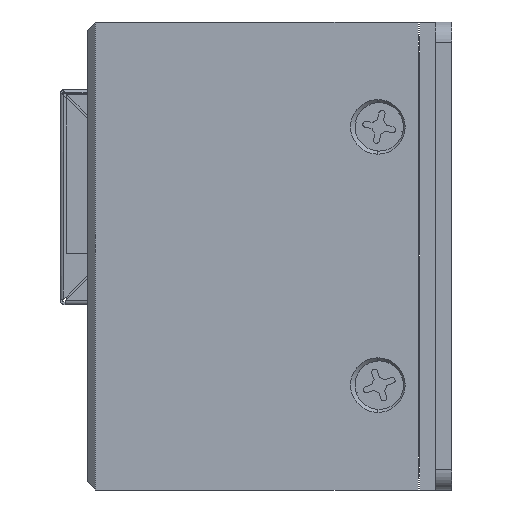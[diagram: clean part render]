
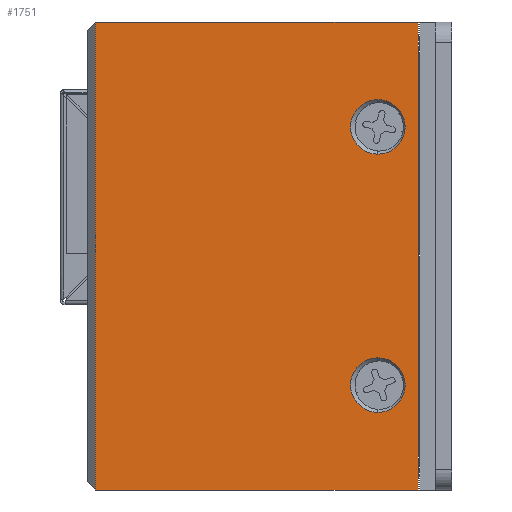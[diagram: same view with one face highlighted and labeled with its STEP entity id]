
A CAD part, left-side view. The second image highlights one B-rep face of the part: STEP entity #1751.
In plain terms, the highlighted planar face has unit normal (-1, 0, 0).
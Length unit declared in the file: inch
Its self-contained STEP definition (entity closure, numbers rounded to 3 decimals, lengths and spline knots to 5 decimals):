
#197 = CARTESIAN_POINT ( 'NONE',  ( -1.3586, 0.93324, 0.725 ) ) ;
#351 = CARTESIAN_POINT ( 'NONE',  ( -1.3586, 0.03324, 0.4 ) ) ;
#1751 = ADVANCED_FACE ( 'NONE', ( #25586, #46461, #58072 ), #47464, .F. ) ;
#2556 = CARTESIAN_POINT ( 'NONE',  ( -1.3586, -0.09176, -0.725 ) ) ;
#3093 = AXIS2_PLACEMENT_3D ( 'NONE', #65758, #50384, #18884 ) ;
#3988 = DIRECTION ( 'NONE',  ( 0., -1., 0. ) ) ;
#4847 = CARTESIAN_POINT ( 'NONE',  ( -1.3586, 0.03324, 0.4845 ) ) ;
#5496 = DIRECTION ( 'NONE',  ( 0., 0., 1. ) ) ;
#5505 = EDGE_LOOP ( 'NONE', ( #31443, #59623 ) ) ;
#6138 = EDGE_LOOP ( 'NONE', ( #35790, #52740, #32893, #7312 ) ) ;
#7312 = ORIENTED_EDGE ( 'NONE', *, *, #37714, .T. ) ;
#9436 = VECTOR ( 'NONE', #3988, 39.37008 ) ;
#10338 = VECTOR ( 'NONE', #59057, 39.37008 ) ;
#11480 = VERTEX_POINT ( 'NONE', #46230 ) ;
#11550 = DIRECTION ( 'NONE',  ( 0., 0., 1. ) ) ;
#12249 = CARTESIAN_POINT ( 'NONE',  ( -1.3586, -0.09176, 0.725 ) ) ;
#12475 = VERTEX_POINT ( 'NONE', #58650 ) ;
#12857 = CARTESIAN_POINT ( 'NONE',  ( -1.3586, 0.90824, 0.725 ) ) ;
#15385 = CIRCLE ( 'NONE', #21906, 0.0845 ) ;
#15626 = CARTESIAN_POINT ( 'NONE',  ( -1.3586, 0.93324, -0.725 ) ) ;
#15641 = EDGE_CURVE ( 'NONE', #11480, #42273, #51596, .T. ) ;
#16359 = CIRCLE ( 'NONE', #47008, 0.0845 ) ;
#17994 = DIRECTION ( 'NONE',  ( 0., 0., 1. ) ) ;
#18884 = DIRECTION ( 'NONE',  ( 0., 0., 1. ) ) ;
#20410 = ORIENTED_EDGE ( 'NONE', *, *, #28539, .F. ) ;
#20436 = DIRECTION ( 'NONE',  ( 0., 0., -1. ) ) ;
#20515 = VERTEX_POINT ( 'NONE', #12857 ) ;
#21376 = CARTESIAN_POINT ( 'NONE',  ( -1.3586, 0.03324, 0.3155 ) ) ;
#21906 = AXIS2_PLACEMENT_3D ( 'NONE', #33081, #27955, #17994 ) ;
#22621 = AXIS2_PLACEMENT_3D ( 'NONE', #23176, #64578, #11550 ) ;
#23113 = LINE ( 'NONE', #2556, #10338 ) ;
#23176 = CARTESIAN_POINT ( 'NONE',  ( -1.3586, 0.03324, -0.4 ) ) ;
#25178 = DIRECTION ( 'NONE',  ( 0., 0., -1. ) ) ;
#25222 = LINE ( 'NONE', #197, #9436 ) ;
#25514 = LINE ( 'NONE', #47072, #58124 ) ;
#25586 = FACE_BOUND ( 'NONE', #59237, .T. ) ;
#25915 = CARTESIAN_POINT ( 'NONE',  ( -1.3586, 0.93324, -0.725 ) ) ;
#26257 = DIRECTION ( 'NONE',  ( 1., 0., 0. ) ) ;
#27955 = DIRECTION ( 'NONE',  ( -1., 0., 0. ) ) ;
#28539 = EDGE_CURVE ( 'NONE', #12475, #65044, #59752, .T. ) ;
#29659 = VERTEX_POINT ( 'NONE', #21376 ) ;
#29737 = VECTOR ( 'NONE', #56355, 39.37008 ) ;
#31258 = EDGE_CURVE ( 'NONE', #52942, #29659, #52322, .T. ) ;
#31443 = ORIENTED_EDGE ( 'NONE', *, *, #31258, .F. ) ;
#32893 = ORIENTED_EDGE ( 'NONE', *, *, #15641, .T. ) ;
#33081 = CARTESIAN_POINT ( 'NONE',  ( -1.3586, 0.03324, -0.4 ) ) ;
#35790 = ORIENTED_EDGE ( 'NONE', *, *, #61942, .F. ) ;
#35953 = ORIENTED_EDGE ( 'NONE', *, *, #67560, .F. ) ;
#37714 = EDGE_CURVE ( 'NONE', #42273, #38909, #23113, .T. ) ;
#38887 = CARTESIAN_POINT ( 'NONE',  ( -1.3586, -0.09176, -0.725 ) ) ;
#38909 = VERTEX_POINT ( 'NONE', #12249 ) ;
#42273 = VERTEX_POINT ( 'NONE', #38887 ) ;
#46230 = CARTESIAN_POINT ( 'NONE',  ( -1.3586, 0.90824, -0.725 ) ) ;
#46461 = FACE_BOUND ( 'NONE', #5505, .T. ) ;
#47008 = AXIS2_PLACEMENT_3D ( 'NONE', #351, #52406, #5496 ) ;
#47072 = CARTESIAN_POINT ( 'NONE',  ( -1.3586, 0.90824, -0.725 ) ) ;
#47464 = PLANE ( 'NONE',  #52110 ) ;
#50384 = DIRECTION ( 'NONE',  ( -1., 0., 0. ) ) ;
#51596 = LINE ( 'NONE', #15626, #29737 ) ;
#52110 = AXIS2_PLACEMENT_3D ( 'NONE', #25915, #26257, #20436 ) ;
#52322 = CIRCLE ( 'NONE', #3093, 0.0845 ) ;
#52406 = DIRECTION ( 'NONE',  ( -1., 0., 0. ) ) ;
#52740 = ORIENTED_EDGE ( 'NONE', *, *, #54665, .T. ) ;
#52942 = VERTEX_POINT ( 'NONE', #4847 ) ;
#54665 = EDGE_CURVE ( 'NONE', #20515, #11480, #25514, .T. ) ;
#56355 = DIRECTION ( 'NONE',  ( 0., -1., 0. ) ) ;
#58072 = FACE_OUTER_BOUND ( 'NONE', #6138, .T. ) ;
#58124 = VECTOR ( 'NONE', #25178, 39.37008 ) ;
#58650 = CARTESIAN_POINT ( 'NONE',  ( -1.3586, 0.03324, -0.4845 ) ) ;
#59057 = DIRECTION ( 'NONE',  ( 0., 0., 1. ) ) ;
#59237 = EDGE_LOOP ( 'NONE', ( #35953, #20410 ) ) ;
#59623 = ORIENTED_EDGE ( 'NONE', *, *, #64897, .F. ) ;
#59752 = CIRCLE ( 'NONE', #22621, 0.0845 ) ;
#61942 = EDGE_CURVE ( 'NONE', #20515, #38909, #25222, .T. ) ;
#64578 = DIRECTION ( 'NONE',  ( -1., 0., 0. ) ) ;
#64897 = EDGE_CURVE ( 'NONE', #29659, #52942, #16359, .T. ) ;
#65044 = VERTEX_POINT ( 'NONE', #65244 ) ;
#65244 = CARTESIAN_POINT ( 'NONE',  ( -1.3586, 0.03324, -0.3155 ) ) ;
#65758 = CARTESIAN_POINT ( 'NONE',  ( -1.3586, 0.03324, 0.4 ) ) ;
#67560 = EDGE_CURVE ( 'NONE', #65044, #12475, #15385, .T. ) ;
